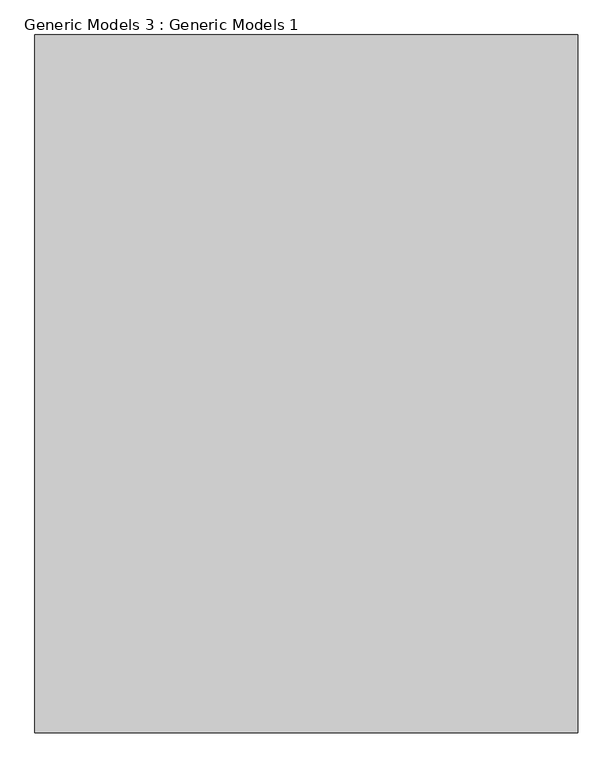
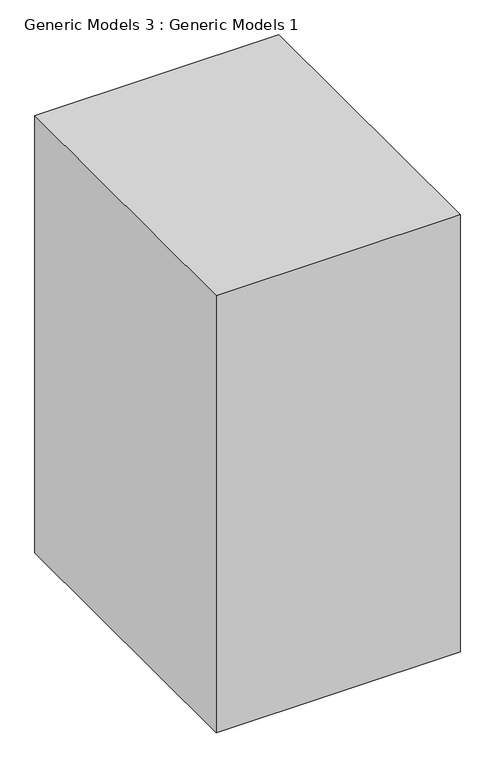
"""IFC4 building model written with IfcOpenShell, lengths in millimetres: proxy geometry, Generic Models 3 : Generic Models 1."""

from ifc_helpers import new_model, si_unit, origin, origin_with_axes, place, context, project, spatial, polyline, outline, extrude, source, transform, mapped, element, save


def generic_models_3_generic_models_1_9fa9e00d(model_context):
    return source(origin(), model_context, "Body", "SweptSolid", [
        extrude(outline(polyline([(1438.6784514, 4388.970381), (1438.6784514, 9788.970381), (5638.6784514, 9788.970381), (5638.6784514, 4388.970381), (1438.6784514, 4388.970381)])), origin_with_axes(), (0.0, 0.0, 1.0), 7960.5764271),
    ])


if __name__ == "__main__":
    model = new_model("IFC4")
    model_context = context("Model", 3, world=origin())
    ifc_project = project(units=[si_unit("LENGTHUNIT", "METRE", prefix="MILLI")], contexts=[model_context])
    site = spatial("IfcSite", under=ifc_project)
    building = spatial("IfcBuilding", under=site)
    placement = place(None, origin())
    generic_models_3_generic_models_1_shape = generic_models_3_generic_models_1_9fa9e00d(model_context)
    element("IfcBuildingElementProxy", 1, Name="Generic Models 3 : Generic Models 1", ObjectType="Generic Models 3 : Generic Models 1", at=placement, inside=building, context=model_context, shape_type="MappedRepresentation", body=[
        mapped(generic_models_3_generic_models_1_shape, transform((0.0, 0.0, 0.0), x_axis=(1.0, 0.0, 0.0), y_axis=(0.0, 1.0, 0.0), z_axis=(0.0, 0.0, 1.0))),
    ])
    save(model, "model.ifc")
